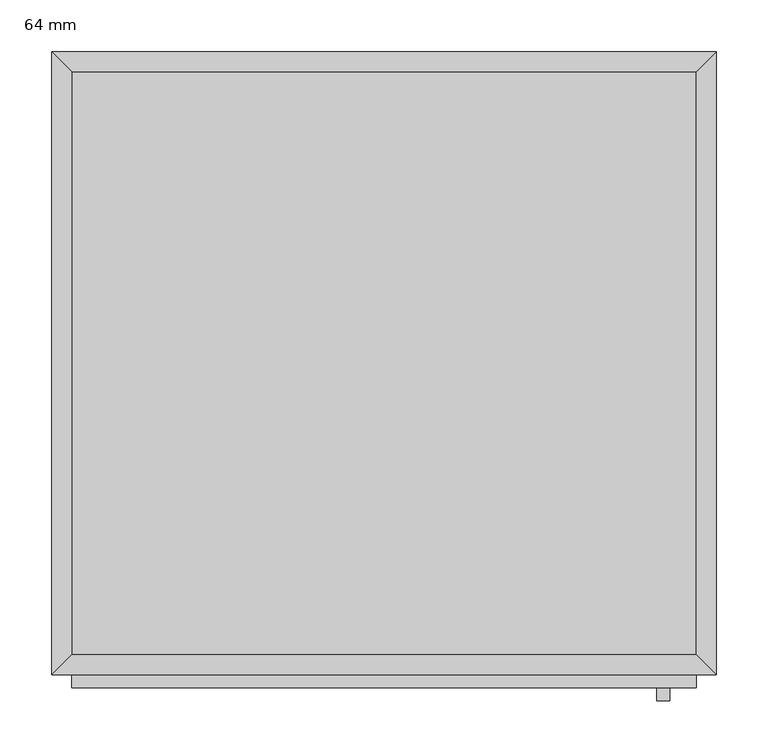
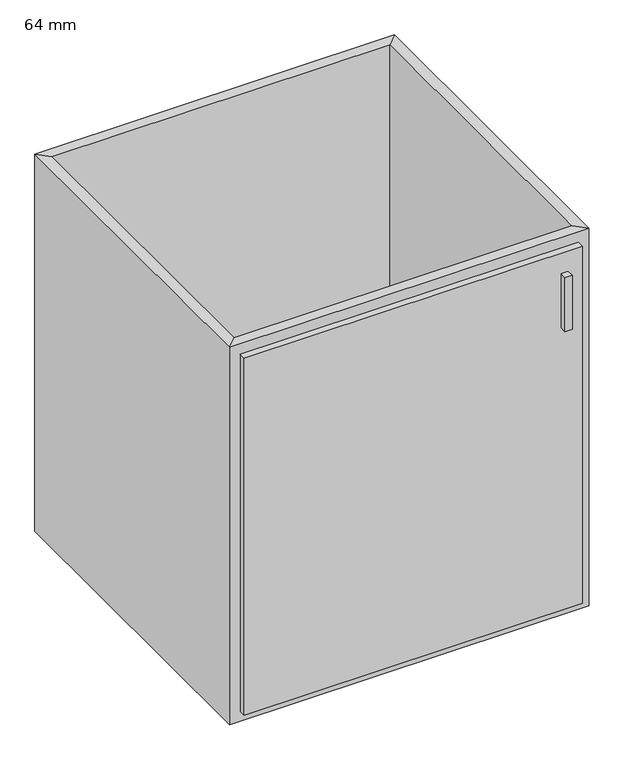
"""IFC4 building model written with IfcOpenShell, lengths in millimetres: furniture geometry, Armario-Una puerta : 64 mm."""

from ifc_helpers import new_model, si_unit, frame, origin, place, context, project, spatial, polyline, outline, extrude, faceted_brep, source, transform, mapped, element, save


def furniture_64_mm_1e2b4716(model_context):
    return source(origin(), model_context, "Body", "SolidModel", [
        extrude(outline(polyline([(319.6877049, -19.05), (319.6877049, -580.95), (-282.2122951, -580.95), (-282.2122951, -19.05), (319.6877049, -19.05)])), frame((0.0, 0.0, 150.0), z_axis=(0.0, 0.0, 1.0), x_axis=(1.0, 0.0, 0.0)), (0.0, 0.0, 1.0), 19.05),
        faceted_brep([(319.6877049, -580.95, 860.0), (319.6877049, -580.95, 150.0), (-282.2122951, -580.95, 150.0), (-282.2122951, -580.95, 860.0), (338.7377049, -600.0, 860.0), (-301.2622951, -600.0, 860.0), (338.7377049, -600.0, 150.0), (-301.2622951, -600.0, 150.0), (-282.2122951, -19.05, 150.0), (-282.2122951, -19.05, 860.0), (-301.2622951, 0.0, 860.0), (-301.2622951, 0.0, 150.0), (319.6877049, -19.05, 150.0), (319.6877049, -19.05, 860.0), (338.7377049, 0.0, 860.0), (338.7377049, 0.0, 150.0)], [[[0, 1, 2, 3]], [[4, 0, 3, 5]], [[6, 4, 5, 7]], [[1, 6, 7, 2]], [[3, 2, 8, 9]], [[5, 3, 9, 10]], [[7, 5, 10, 11]], [[2, 7, 11, 8]], [[9, 8, 12, 13]], [[10, 9, 13, 14]], [[11, 10, 14, 15]], [[8, 11, 15, 12]], [[13, 12, 1, 0]], [[14, 13, 0, 4]], [[15, 14, 4, 6]], [[12, 15, 6, 1]]]),
        extrude(outline(polyline([(319.6877049, -612.7), (-282.2122951, -612.7), (-282.2122951, -600.0), (319.6877049, -600.0), (319.6877049, -612.7)])), frame((0.0, 0.0, 169.05), z_axis=(0.0, 0.0, 1.0), x_axis=(1.0, 0.0, 0.0)), (0.0, 0.0, 1.0), 671.9),
        extrude(outline(polyline([(294.2877049, -625.4), (281.5877049, -625.4), (281.5877049, -612.7), (294.2877049, -612.7), (294.2877049, -625.4)])), frame((0.0, 0.0, 701.25), z_axis=(0.0, 0.0, 1.0), x_axis=(1.0, 0.0, 0.0)), (0.0, 0.0, 1.0), 101.6),
    ])


if __name__ == "__main__":
    model = new_model("IFC4")
    model_context = context("Model", 3, world=origin())
    ifc_project = project(units=[si_unit("LENGTHUNIT", "METRE", prefix="MILLI")], contexts=[model_context])
    site = spatial("IfcSite", under=ifc_project)
    building = spatial("IfcBuilding", under=site)
    placement = place(None, origin())
    furniture_64_mm_shape = furniture_64_mm_1e2b4716(model_context)
    element("IfcFurniture", 1, ObjectType="Armario-Una puerta : 64 mm", at=placement, inside=building, context=model_context, shape_type="MappedRepresentation", body=[
        mapped(furniture_64_mm_shape, transform((0.0, 0.0, 0.0), x_axis=(1.0, 0.0, 0.0), y_axis=(0.0, 1.0, 0.0), z_axis=(0.0, 0.0, 1.0))),
    ])
    save(model, "model.ifc")
